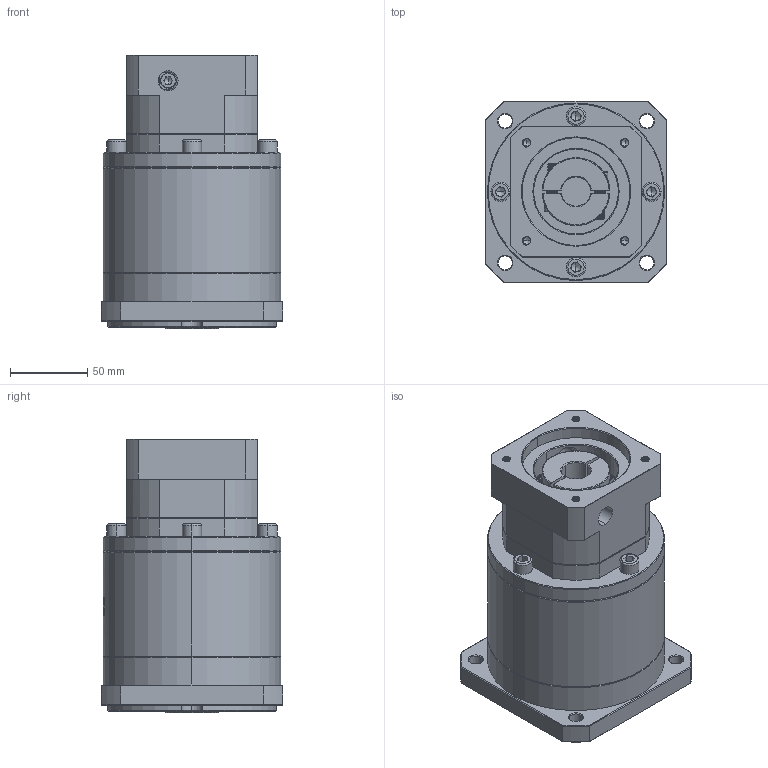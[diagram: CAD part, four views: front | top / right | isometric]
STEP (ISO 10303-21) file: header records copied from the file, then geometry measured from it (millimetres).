
FILE_DESCRIPTION (( 'STEP AP214' ), '1' );
FILE_NAME ('ZF120A-K25-L3-P2-19-70-90-M6.step', '2023-08-27T06:03:21', ( '' ), ( '' ), 'SwSTEP 2.0', 'SolidWorks 2016', '' );
FILE_SCHEMA (( 'AUTOMOTIVE_DESIGN' ));
Length unit declared in the file: millimetre
Products named in the file (1): ZF120A-K25-L3-P2-19-70-90-M6
Bounding box: 118 x 118 x 177.5 mm (x, y, z)
Volume: 1528407.7 mm3; surface area: 134465.7 mm2
Topology: 5 solids, 5 shells, 2125 faces, 5695 edges, 3666 vertices
Faces by surface type: plane 1047, bspline 425, cylinder 363, cone 290
Entity records: 114934 total; most frequent: CARTESIAN_POINT 43747, ORIENTED_EDGE 11334, DIRECTION 8081, EDGE_CURVE 5667, VERTEX_POINT 3666, LINE 3027, VECTOR 3027, AXIS2_PLACEMENT_3D 2527
